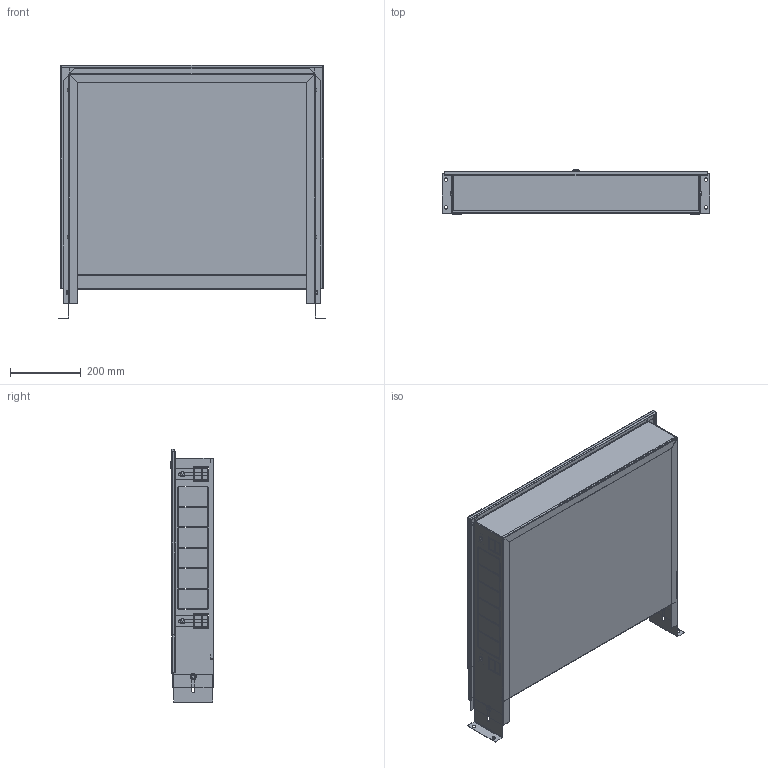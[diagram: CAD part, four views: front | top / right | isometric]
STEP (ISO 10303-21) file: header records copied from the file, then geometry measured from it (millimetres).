
FILE_DESCRIPTION(('TFLEX Exchange Step'),'2;1');
FILE_NAME('Manifold cabinet VTc.540.0.03 Valtec.stp', '2023-10-11T14:39:49+03:00',('denis'),('Unknown organisation'),'TFLEX Exchange 2023.0','T-FLEX CAD','Unknown authorisation');
FILE_SCHEMA( ('AUTOMOTIVE_DESIGN { 1 0 10303 214 1 1 1 1 }') );
Length unit declared in the file: millimetre
Products named in the file (1): Nodes
Bounding box: 760 x 124.1 x 719 mm (x, y, z)
Volume: 1118342.5 mm3; surface area: 2695826.1 mm2
Topology: 14 solids, 15 shells, 784 faces, 2075 edges, 1345 vertices
Faces by surface type: plane 592, cylinder 127, cone 43, bspline 12, torus 6, sphere 4
Full cylindrical faces by diameter (mm): 6 x12, 6.4 x6, 7 x2, 10 x5, 12 x1, 14 x4, 16 x1, 18 x6, 20 x2
Entity records: 27234 total; most frequent: CARTESIAN_POINT 7580, ORIENTED_EDGE 4142, DIRECTION 3793, EDGE_CURVE 2071, VECTOR 1535, LINE 1535, VERTEX_POINT 1345, AXIS2_PLACEMENT_3D 1129
